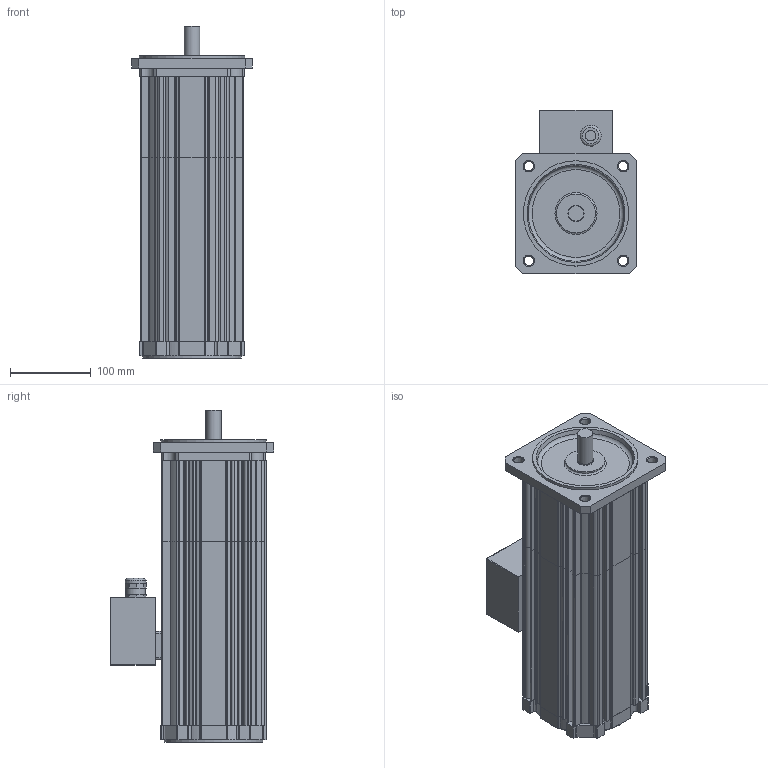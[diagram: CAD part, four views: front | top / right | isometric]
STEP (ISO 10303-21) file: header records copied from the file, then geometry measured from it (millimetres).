
FILE_DESCRIPTION(/* description */ (''),/* implementation_level */ '2;1');
FILE_NAME(/* name */ 'KSA6416_MC',/* time_stamp */ '2009-02-26T15:31:33+01:00',/* author */ (''),/* organization */ (''),/* preprocessor_version */ 'ST-DEVELOPER v8',/* originating_system */ 'UNIGRAPHICS SOLUTIONS - UNIGRAPHICS 18.0',/* authorisation */ '');
FILE_SCHEMA (('AUTOMOTIVE_DESIGN { 1 2 10303 214 0 1 1 1 }'));
Length unit declared in the file: millimetre
Products named in the file (6): 0280391350_0; 089106X_0; LagerschBS_0; LagerschAS_0; Klemmenkasten_0; KSA648_MC_0
Assembly tree (5 placements, depth 3):
  KSA648_MC_0
    LagerschAS_0
    Klemmenkasten_0
      0280391350_0
    LagerschBS_0
    089106X_0
Bounding box: 149 x 202.35 x 410 mm (x, y, z)
Volume: 2435175.9 mm3; surface area: 639008.6 mm2
Topology: 6 solids, 6 shells, 615 faces, 1738 edges, 1145 vertices
Faces by surface type: cylinder 331, plane 266, cone 10, torus 4, sphere 4
Full cylindrical faces by diameter (mm): 13 x1, 18 x1, 19 x1, 20 x2, 24 x1, 26 x1, 48 x1, 114 x1, 119.7 x2, 121 x1, 122 x2, 130 x1
Entity records: 20117 total; most frequent: DIRECTION 3636, CARTESIAN_POINT 3459, ORIENTED_EDGE 3398, EDGE_CURVE 1699, AXIS2_PLACEMENT_3D 1316, VERTEX_POINT 1139, LINE 1004, VECTOR 1004
